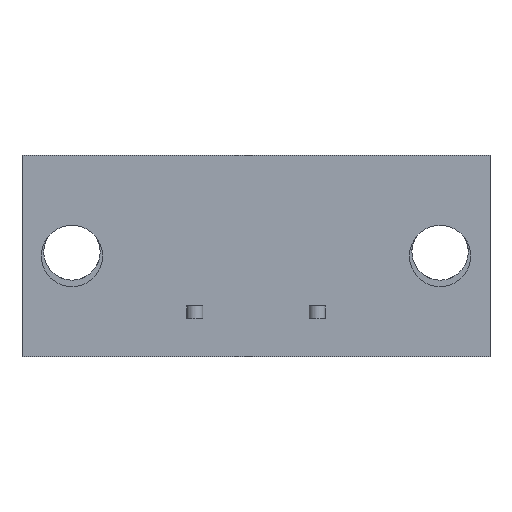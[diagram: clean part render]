
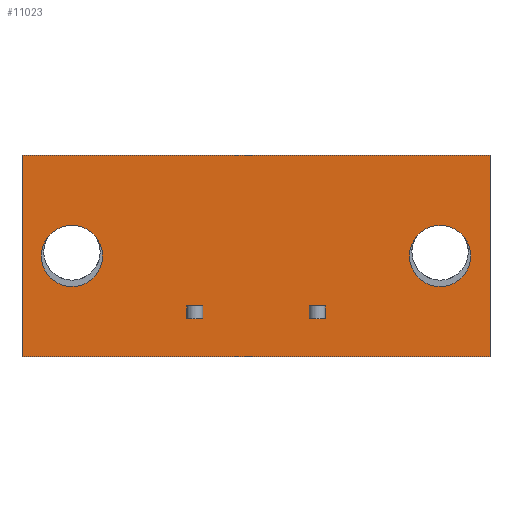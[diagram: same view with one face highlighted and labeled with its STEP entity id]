
A CAD part, front view. The second image highlights one B-rep face of the part: STEP entity #11023.
In plain terms, the highlighted planar face has unit normal (0, -1, 0).
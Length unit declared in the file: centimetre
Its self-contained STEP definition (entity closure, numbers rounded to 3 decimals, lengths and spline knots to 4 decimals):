
#578=CIRCLE('',#18493,0.19);
#642=CIRCLE('',#18676,0.19);
#763=VERTEX_POINT('',#14193);
#764=VERTEX_POINT('',#14194);
#771=VERTEX_POINT('',#14210);
#785=VERTEX_POINT('',#14242);
#1178=VERTEX_POINT('',#15914);
#1179=VERTEX_POINT('',#15916);
#1182=VERTEX_POINT('',#15924);
#1387=VERTEX_POINT('',#16625);
#1388=VERTEX_POINT('',#16626);
#1393=VERTEX_POINT('',#16642);
#1394=VERTEX_POINT('',#16646);
#1407=VERTEX_POINT('',#16679);
#1410=VERTEX_POINT('',#16688);
#1411=VERTEX_POINT('',#16690);
#1852=VECTOR('',#11961,1.);
#1860=VECTOR('',#11970,1.);
#1874=VECTOR('',#11990,1.);
#1877=VECTOR('',#11998,1.);
#2349=VECTOR('',#12667,1.);
#2568=VECTOR('',#13145,1.);
#2574=VECTOR('',#13159,1.);
#2576=VECTOR('',#13162,1.);
#2578=VECTOR('',#13165,1.);
#2589=VECTOR('',#13186,1.);
#2594=VECTOR('',#13194,1.);
#2595=VECTOR('',#13195,1.);
#3108=LINE('',#14192,#1852);
#3116=LINE('',#14209,#1860);
#3130=LINE('',#14241,#1874);
#3133=LINE('',#14249,#1877);
#3605=LINE('',#15915,#2349);
#3824=LINE('',#16624,#2568);
#3830=LINE('',#16641,#2574);
#3832=LINE('',#16645,#2576);
#3834=LINE('',#16649,#2578);
#3845=LINE('',#16678,#2589);
#3850=LINE('',#16689,#2594);
#3851=LINE('',#16691,#2595);
#4439=EDGE_CURVE('',#763,#764,#3108,.T.);
#4447=EDGE_CURVE('',#771,#763,#3116,.T.);
#4462=EDGE_CURVE('',#764,#785,#3130,.T.);
#4466=EDGE_CURVE('',#785,#771,#3133,.T.);
#5056=EDGE_CURVE('',#1179,#1178,#3605,.T.);
#5060=EDGE_CURVE('',#1182,#1182,#578,.T.);
#5370=EDGE_CURVE('',#1387,#1388,#3824,.T.);
#5378=EDGE_CURVE('',#1393,#1387,#3830,.T.);
#5380=EDGE_CURVE('',#1394,#1393,#3832,.T.);
#5382=EDGE_CURVE('',#1388,#1394,#3834,.T.);
#5396=EDGE_CURVE('',#1407,#1178,#3845,.T.);
#5401=EDGE_CURVE('',#1410,#1410,#642,.T.);
#5402=EDGE_CURVE('',#1411,#1179,#3850,.T.);
#5403=EDGE_CURVE('',#1407,#1411,#3851,.T.);
#8143=ORIENTED_EDGE('',*,*,#4447,.T.);
#8144=ORIENTED_EDGE('',*,*,#4439,.T.);
#8145=ORIENTED_EDGE('',*,*,#4462,.T.);
#8146=ORIENTED_EDGE('',*,*,#4466,.T.);
#8147=ORIENTED_EDGE('',*,*,#5060,.T.);
#8148=ORIENTED_EDGE('',*,*,#5401,.T.);
#8149=ORIENTED_EDGE('',*,*,#5378,.F.);
#8150=ORIENTED_EDGE('',*,*,#5380,.F.);
#8151=ORIENTED_EDGE('',*,*,#5382,.F.);
#8152=ORIENTED_EDGE('',*,*,#5370,.F.);
#8153=ORIENTED_EDGE('',*,*,#5402,.T.);
#8154=ORIENTED_EDGE('',*,*,#5056,.T.);
#8155=ORIENTED_EDGE('',*,*,#5396,.F.);
#8156=ORIENTED_EDGE('',*,*,#5403,.T.);
#9691=EDGE_LOOP('',(#8143,#8144,#8145,#8146));
#9692=EDGE_LOOP('',(#8147));
#9693=EDGE_LOOP('',(#8148));
#9694=EDGE_LOOP('',(#8149,#8150,#8151,#8152));
#9695=EDGE_LOOP('',(#8153,#8154,#8155,#8156));
#10377=FACE_BOUND('',#9691,.T.);
#10378=FACE_BOUND('',#9692,.T.);
#10379=FACE_BOUND('',#9693,.T.);
#10380=FACE_BOUND('',#9694,.T.);
#10381=FACE_BOUND('',#9695,.T.);
#11023=ADVANCED_FACE('',(#10377,#10378,#10379,#10380,#10381),#11529,.T.);
#11529=PLANE('',#18675);
#11961=DIRECTION('',(0.,0.,1.));
#11970=DIRECTION('',(-1.,0.,0.));
#11990=DIRECTION('',(1.,0.,0.));
#11998=DIRECTION('',(0.,0.,-1.));
#12667=DIRECTION('',(0.,0.,1.));
#12673=DIRECTION('',(0.,1.,0.));
#12674=DIRECTION('',(0.19,0.,0.));
#13145=DIRECTION('',(0.,0.,1.));
#13159=DIRECTION('',(1.,0.,0.));
#13162=DIRECTION('',(0.,0.,-1.));
#13165=DIRECTION('',(-1.,0.,0.));
#13186=DIRECTION('',(1.,0.,0.));
#13191=DIRECTION('',(0.,-1.,0.));
#13192=DIRECTION('',(0.,1.,0.));
#13193=DIRECTION('',(0.19,0.,0.));
#13194=DIRECTION('',(1.,0.,0.));
#13195=DIRECTION('',(0.,0.,-1.));
#14192=CARTESIAN_POINT('',(0.712,-0.53,-0.2));
#14193=CARTESIAN_POINT('',(0.712,-0.53,-0.415));
#14194=CARTESIAN_POINT('',(0.712,-0.53,-0.335));
#14209=CARTESIAN_POINT('',(0.155,-0.53,-0.415));
#14210=CARTESIAN_POINT('',(0.812,-0.53,-0.415));
#14241=CARTESIAN_POINT('',(0.155,-0.53,-0.335));
#14242=CARTESIAN_POINT('',(0.812,-0.53,-0.335));
#14249=CARTESIAN_POINT('',(0.812,-0.53,-0.2));
#15914=CARTESIAN_POINT('',(1.834,-0.53,0.6));
#15915=CARTESIAN_POINT('',(1.834,-0.53,0.6));
#15916=CARTESIAN_POINT('',(1.834,-0.53,-0.65));
#15923=CARTESIAN_POINT('',(1.524,-0.53,-0.025));
#15924=CARTESIAN_POINT('',(1.334,-0.53,-0.025));
#16624=CARTESIAN_POINT('',(0.05,-0.53,-0.2));
#16625=CARTESIAN_POINT('',(0.05,-0.53,-0.415));
#16626=CARTESIAN_POINT('',(0.05,-0.53,-0.335));
#16641=CARTESIAN_POINT('',(-0.155,-0.53,-0.415));
#16642=CARTESIAN_POINT('',(-0.05,-0.53,-0.415));
#16645=CARTESIAN_POINT('',(-0.05,-0.53,-0.2));
#16646=CARTESIAN_POINT('',(-0.05,-0.53,-0.335));
#16649=CARTESIAN_POINT('',(-0.155,-0.53,-0.335));
#16678=CARTESIAN_POINT('',(-1.072,-0.53,0.6));
#16679=CARTESIAN_POINT('',(-1.072,-0.53,0.6));
#16686=CARTESIAN_POINT('',(-0.452,-0.53,-0.025));
#16687=CARTESIAN_POINT('',(-0.762,-0.53,-0.025));
#16688=CARTESIAN_POINT('',(-0.952,-0.53,-0.025));
#16689=CARTESIAN_POINT('',(-1.072,-0.53,-0.65));
#16690=CARTESIAN_POINT('',(-1.072,-0.53,-0.65));
#16691=CARTESIAN_POINT('',(-1.072,-0.53,0.6));
#18493=AXIS2_PLACEMENT_3D('',#15923,#12673,#12674);
#18675=AXIS2_PLACEMENT_3D('',#16686,#13191,$);
#18676=AXIS2_PLACEMENT_3D('',#16687,#13192,#13193);
